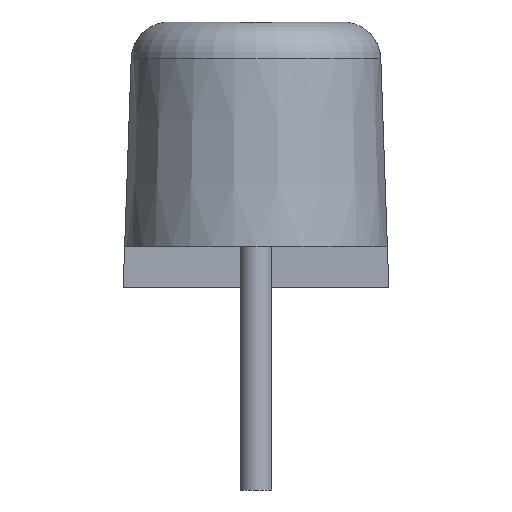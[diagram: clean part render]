
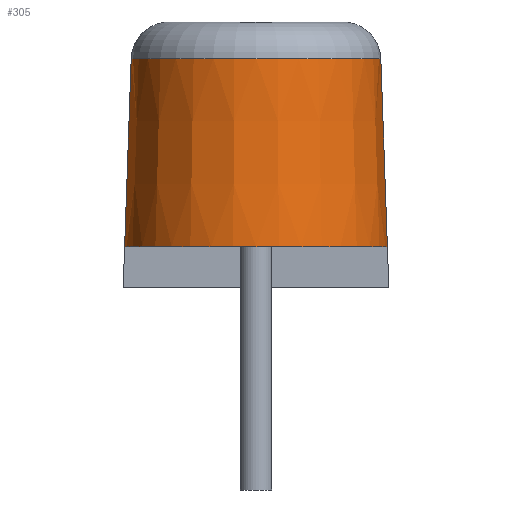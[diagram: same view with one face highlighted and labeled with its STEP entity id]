
A CAD part, front view. The second image highlights one B-rep face of the part: STEP entity #305.
In plain terms, the highlighted conical face has half-angle 2 degrees and reference radius 2.1 mm.
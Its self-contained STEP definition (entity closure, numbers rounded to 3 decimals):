
#147=CARTESIAN_POINT('',(-1.974,-9.421,3.621));
#148=VERTEX_POINT('',#147);
#189=CARTESIAN_POINT('',(1.974,-9.421,3.621));
#190=VERTEX_POINT('',#189);
#208=CARTESIAN_POINT('',(0.,-9.421,3.621));
#209=DIRECTION('',(0.0,0.0,1.0));
#210=DIRECTION('',(0.0,-1.0,0.0));
#211=AXIS2_PLACEMENT_3D('',#208,#209,#210);
#212=CIRCLE('',#211,1.974);
#213=EDGE_CURVE('',#148,#190,#212,.T.);
#274=CARTESIAN_POINT('',(0.,-9.421,0.0));
#275=DIRECTION('',(0.0,0.0,-1.0));
#276=DIRECTION('',(1.0,0.0,0.0));
#277=AXIS2_PLACEMENT_3D('',#274,#275,#276);
#278=CONICAL_SURFACE('',#277,2.1,2.0);
#279=ORIENTED_EDGE('',*,*,#213,.F.);
#280=CARTESIAN_POINT('',(-2.077,-9.421,0.65));
#281=VERTEX_POINT('',#280);
#282=CARTESIAN_POINT('',(-2.077,-9.421,0.65));
#283=DIRECTION('',(0.035,0.0,0.999));
#284=VECTOR('',#283,2.973);
#285=LINE('',#282,#284);
#286=EDGE_CURVE('',#281,#148,#285,.T.);
#287=ORIENTED_EDGE('',*,*,#286,.F.);
#288=CARTESIAN_POINT('',(2.077,-9.421,0.65));
#289=VERTEX_POINT('',#288);
#290=CARTESIAN_POINT('',(0.,-9.421,0.65));
#291=DIRECTION('',(0.0,0.0,1.0));
#292=DIRECTION('',(1.0,0.0,0.0));
#293=AXIS2_PLACEMENT_3D('',#290,#291,#292);
#294=CIRCLE('',#293,2.077);
#295=EDGE_CURVE('',#281,#289,#294,.T.);
#296=ORIENTED_EDGE('',*,*,#295,.T.);
#297=CARTESIAN_POINT('',(2.077,-9.421,0.65));
#298=DIRECTION('',(-0.035,0.0,0.999));
#299=VECTOR('',#298,2.973);
#300=LINE('',#297,#299);
#301=EDGE_CURVE('',#289,#190,#300,.T.);
#302=ORIENTED_EDGE('',*,*,#301,.T.);
#303=EDGE_LOOP('',(#279,#287,#296,#302));
#304=FACE_OUTER_BOUND('',#303,.T.);
#305=ADVANCED_FACE('',(#304),#278,.T.);
